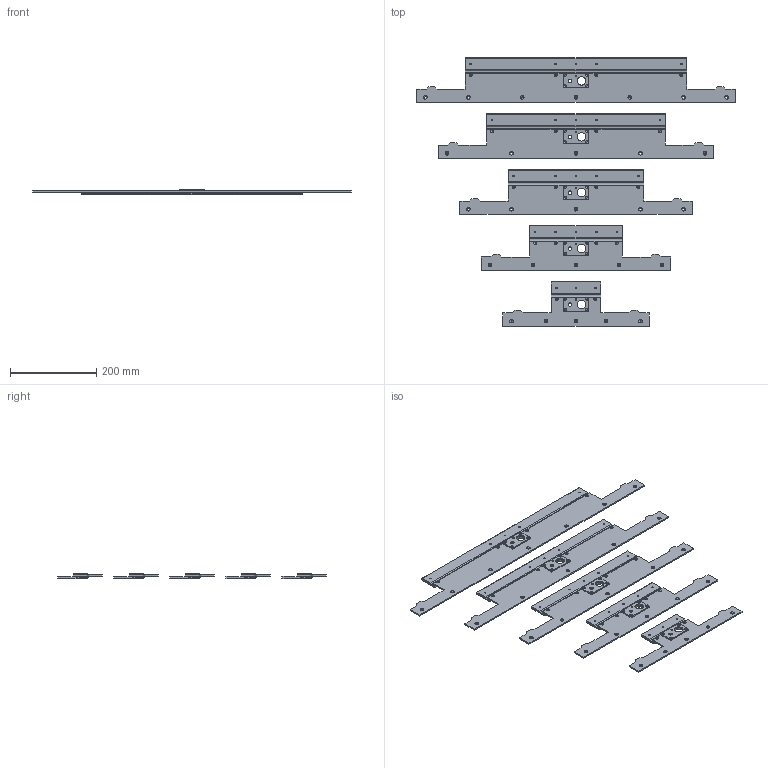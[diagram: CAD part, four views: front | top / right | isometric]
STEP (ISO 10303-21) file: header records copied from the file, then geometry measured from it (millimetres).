
FILE_DESCRIPTION(/* description */ (''),/* implementation_level */ '2;1');
FILE_NAME(/* name */ 'm2-plate.step',/* time_stamp */ '2023-05-24T14:49:43+02:00',/* author */ (''),/* organization */ (''),/* preprocessor_version */ 'ST-DEVELOPER v19.2',/* originating_system */ 'Autodesk Translation Framework v12.4.0.73',/* authorisation */ '');
FILE_SCHEMA (('AUTOMOTIVE_DESIGN { 1 0 10303 214 3 1 1 }'));
Length unit declared in the file: millimetre
Products named in the file (11): Maquette 1_Underplate (1); 200; Maquette 1_Composant378 v1 (1) (1); 300; Maquette 1_Composant378 v1; 400; Maquette 1_Composant378 v1 (1); 500; Maquette 1_Composant378 v1 (1) (3); 600; Maquette 1_Composant378 v1 (1) (2)
Assembly tree (10 placements, depth 3):
  Maquette 1_Underplate (1)
    200
      Maquette 1_Composant378 v1 (1) (1)
    300
      Maquette 1_Composant378 v1
    400
      Maquette 1_Composant378 v1 (1)
    500
      Maquette 1_Composant378 v1 (1) (3)
    600
      Maquette 1_Composant378 v1 (1) (2)
Bounding box: 740 x 624 x 12 mm (x, y, z)
Volume: 831568.1 mm3; surface area: 485473.1 mm2
Topology: 15 solids, 15 shells, 516 faces, 1437 edges, 933 vertices
Faces by surface type: plane 290, cylinder 161, cone 65
Full cylindrical faces by diameter (mm): 3 x38, 3.3 x23, 4 x43, 4.4 x27, 8 x5, 20 x5
Entity records: 17372 total; most frequent: DIRECTION 2916, CARTESIAN_POINT 2907, ORIENTED_EDGE 2874, EDGE_CURVE 1437, LINE 1032, VECTOR 1032, AXIS2_PLACEMENT_3D 942, VERTEX_POINT 933
